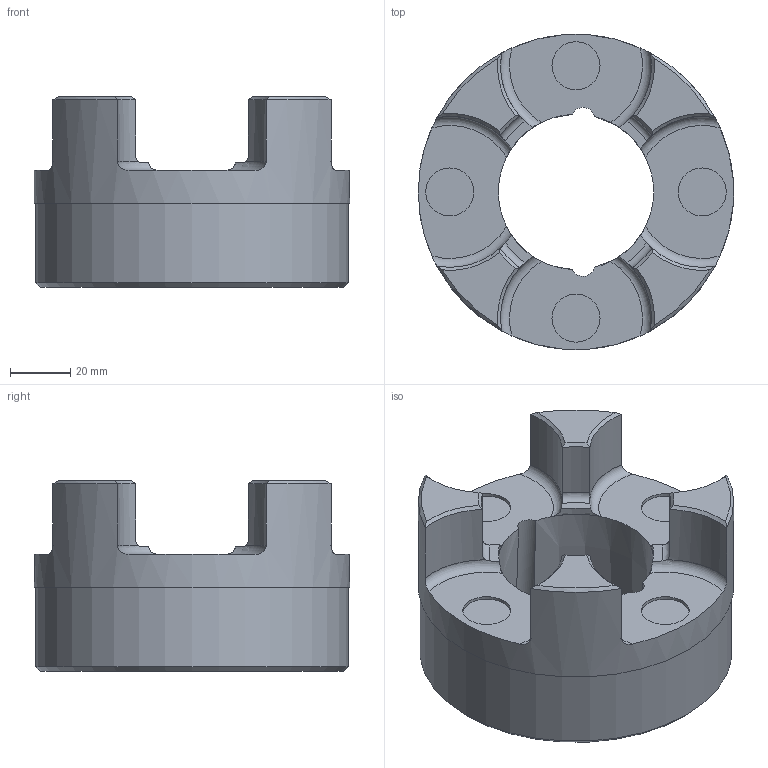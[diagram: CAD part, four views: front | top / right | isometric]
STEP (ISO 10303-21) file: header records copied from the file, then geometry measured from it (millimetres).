
FILE_DESCRIPTION(/* description */ (''),/* implementation_level */ '2;1');
FILE_NAME(/* name */ 'C:\Users\stagistacad\Desktop\03204841.stp',/* time_stamp */ '2018-06-19T10:44:55+02:00',/* author */ ('stagistacad'),/* organization */ (''),/* preprocessor_version */ 'ST-DEVELOPER v15.6',/* originating_system */ 'Autodesk Inventor 2015',/* authorisation */ '');
FILE_SCHEMA (('AUTOMOTIVE_DESIGN { 1 0 10303 214 3 1 1 }'));
Length unit declared in the file: millimetre
Products named in the file (1): 03204841
Bounding box: 105 x 105 x 63.5 mm (x, y, z)
Volume: 279318.8 mm3; surface area: 40409.4 mm2
Topology: 1 solids, 1 shells, 72 faces, 180 edges, 114 vertices
Faces by surface type: cylinder 25, cone 20, plane 15, torus 12
Full cylindrical faces by diameter (mm): 16 x4, 104 x1, 105 x1
Entity records: 2422 total; most frequent: CARTESIAN_POINT 738, DIRECTION 360, ORIENTED_EDGE 340, AXIS2_PLACEMENT_3D 172, EDGE_CURVE 170, VERTEX_POINT 112, CIRCLE 95, EDGE_LOOP 86
